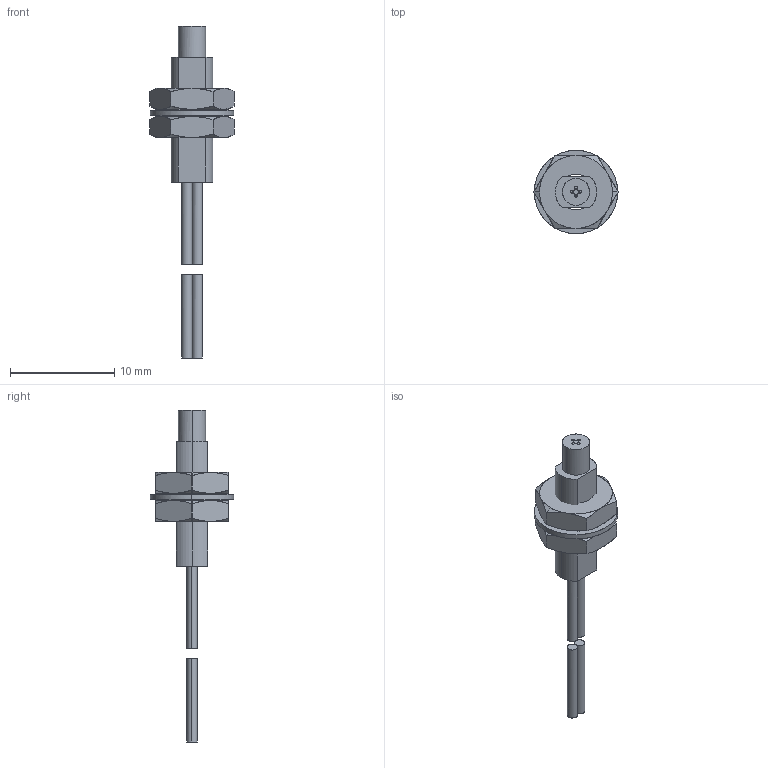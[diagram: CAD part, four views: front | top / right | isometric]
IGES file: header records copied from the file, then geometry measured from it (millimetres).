
Global section: file name: O:\Archiv\ARCHIV\153\3D-Model Kunde (DXF, IGS, SAT)\in Arbeit\15300652_K1R-35.igs; native system: AutoCAD-16.0s (LMS Tech) (Microsoft Windows NT Version 5.1 (x86)); preprocessor: Autodesk IGES Translator Mechanical Desktop.R8.0.24.0 (Oct  8 2003) from Autodesk, Inc.; date: 20080221.113757; units: millimetre
Bounding box: 8.08 x 8 x 31.9 mm (x, y, z)
Surface area: 684.8 mm2 (no closed solid volume)
Topology: 0 solids, 0 shells, 125 faces, 1363 edges, 1363 vertices
Faces by surface type: bspline 125
